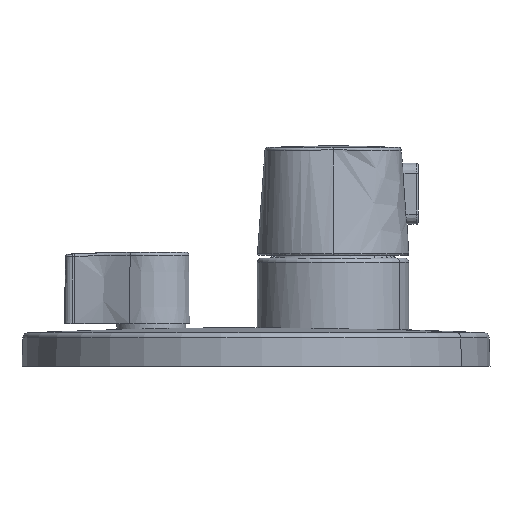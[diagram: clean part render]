
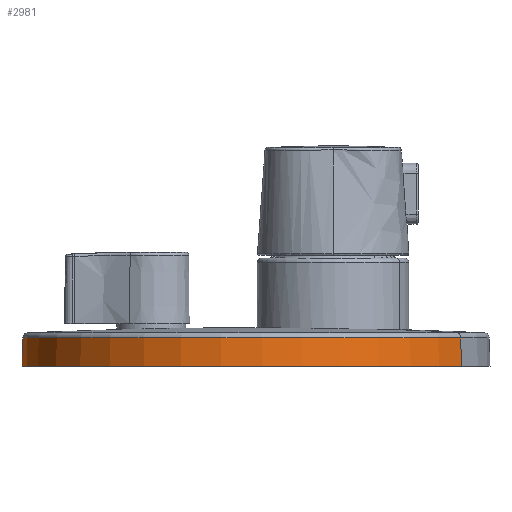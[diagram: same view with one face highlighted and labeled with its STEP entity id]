
A CAD part, left-side view. The second image highlights one B-rep face of the part: STEP entity #2981.
In plain terms, the highlighted conical face has half-angle 1.5 degrees and reference radius 84.697 mm.
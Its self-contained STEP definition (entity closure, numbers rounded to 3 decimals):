
#49 = CIRCLE ( 'NONE', #319, 85.013 ) ;
#116 = DIRECTION ( 'NONE',  ( 0.479, 0.878, 0. ) ) ;
#319 = AXIS2_PLACEMENT_3D ( 'NONE', #3649, #928, #588 ) ;
#327 = CARTESIAN_POINT ( 'NONE',  ( 207.912, 126.176, 133.929 ) ) ;
#411 = FACE_OUTER_BOUND ( 'NONE', #4248, .T. ) ;
#506 = CARTESIAN_POINT ( 'NONE',  ( 167.283, 51.805, 135.792 ) ) ;
#588 = DIRECTION ( 'NONE',  ( 1., 0., 0. ) ) ;
#604 = ORIENTED_EDGE ( 'NONE', *, *, #2651, .F. ) ;
#723 = CONICAL_SURFACE ( 'NONE', #1214, 84.696, 0.026 ) ;
#928 = DIRECTION ( 'NONE',  ( 0., 0., -1. ) ) ;
#938 = VERTEX_POINT ( 'NONE', #1476 ) ;
#1214 = AXIS2_PLACEMENT_3D ( 'NONE', #506, #3143, #116 ) ;
#1296 = CARTESIAN_POINT ( 'NONE',  ( 167.283, 51.805, 133.929 ) ) ;
#1343 = VECTOR ( 'NONE', #1936, 1000. ) ;
#1476 = CARTESIAN_POINT ( 'NONE',  ( 208.041, 126.411, 123.689 ) ) ;
#1545 = VERTEX_POINT ( 'NONE', #3999 ) ;
#1606 = LINE ( 'NONE', #1999, #4269 ) ;
#1649 = DIRECTION ( 'NONE',  ( 0., 0., -1. ) ) ;
#1674 = VERTEX_POINT ( 'NONE', #2422 ) ;
#1903 = EDGE_CURVE ( 'NONE', #1674, #1545, #3111, .T. ) ;
#1936 = DIRECTION ( 'NONE',  ( -0.013, -0.023, -1. ) ) ;
#1999 = CARTESIAN_POINT ( 'NONE',  ( 207.889, 126.133, 135.792 ) ) ;
#2010 = EDGE_CURVE ( 'NONE', #1674, #3931, #2473, .T. ) ;
#2012 = DIRECTION ( 'NONE',  ( 1., 0., 0. ) ) ;
#2040 = ORIENTED_EDGE ( 'NONE', *, *, #3961, .T. ) ;
#2235 = ORIENTED_EDGE ( 'NONE', *, *, #2010, .T. ) ;
#2320 = DIRECTION ( 'NONE',  ( 0.013, 0.023, -1. ) ) ;
#2422 = CARTESIAN_POINT ( 'NONE',  ( 126.654, -22.566, 133.929 ) ) ;
#2473 = CIRCLE ( 'NONE', #2730, 84.745 ) ;
#2651 = EDGE_CURVE ( 'NONE', #1545, #938, #49, .T. ) ;
#2730 = AXIS2_PLACEMENT_3D ( 'NONE', #1296, #1649, #2012 ) ;
#2981 = ADVANCED_FACE ( 'NONE', ( #411 ), #723, .T. ) ;
#3111 = LINE ( 'NONE', #3984, #1343 ) ;
#3143 = DIRECTION ( 'NONE',  ( 0., 0., -1. ) ) ;
#3649 = CARTESIAN_POINT ( 'NONE',  ( 167.283, 51.805, 123.689 ) ) ;
#3931 = VERTEX_POINT ( 'NONE', #327 ) ;
#3961 = EDGE_CURVE ( 'NONE', #3931, #938, #1606, .T. ) ;
#3984 = CARTESIAN_POINT ( 'NONE',  ( 126.677, -22.523, 135.792 ) ) ;
#3999 = CARTESIAN_POINT ( 'NONE',  ( 126.525, -22.801, 123.689 ) ) ;
#4248 = EDGE_LOOP ( 'NONE', ( #4303, #2235, #2040, #604 ) ) ;
#4269 = VECTOR ( 'NONE', #2320, 1000. ) ;
#4303 = ORIENTED_EDGE ( 'NONE', *, *, #1903, .F. ) ;
